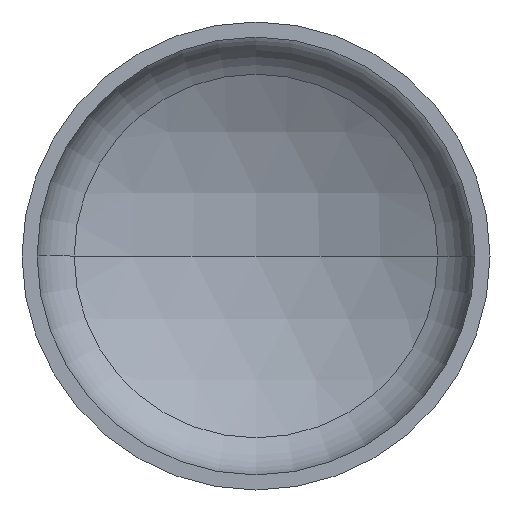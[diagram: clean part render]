
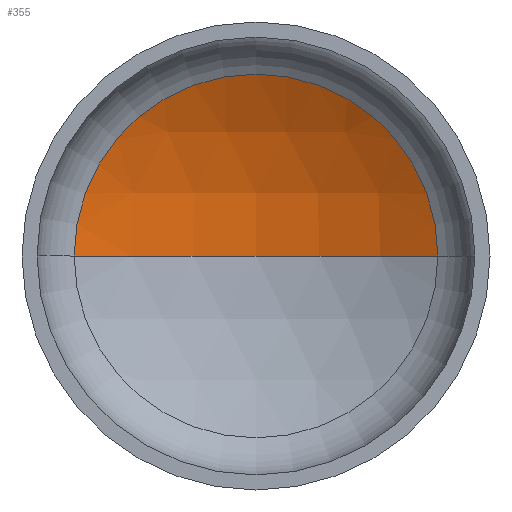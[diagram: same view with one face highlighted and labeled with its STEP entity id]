
A CAD part, front view. The second image highlights one B-rep face of the part: STEP entity #355.
In plain terms, the highlighted spherical face has radius 2080 mm.
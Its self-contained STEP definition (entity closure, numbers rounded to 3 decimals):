
#1 = AXIS2_PLACEMENT_3D ( 'NONE', #227, #398, #250 ) ;
#4 = AXIS2_PLACEMENT_3D ( 'NONE', #317, #243, #157 ) ;
#7 = AXIS2_PLACEMENT_3D ( 'NONE', #87, #343, #390 ) ;
#35 = EDGE_LOOP ( 'NONE', ( #147, #82, #122 ) ) ;
#82 = ORIENTED_EDGE ( 'NONE', *, *, #372, .T. ) ;
#83 = VERTEX_POINT ( 'NONE', #305 ) ;
#87 = CARTESIAN_POINT ( 'NONE',  ( 0., -1368.518, 0. ) ) ;
#93 = VERTEX_POINT ( 'NONE', #302 ) ;
#115 = VERTEX_POINT ( 'NONE', #284 ) ;
#122 = ORIENTED_EDGE ( 'NONE', *, *, #379, .T. ) ;
#147 = ORIENTED_EDGE ( 'NONE', *, *, #352, .F. ) ;
#157 = DIRECTION ( 'NONE',  ( -1., 0., 0. ) ) ;
#172 = CARTESIAN_POINT ( 'NONE',  ( 0., 449.647, 0. ) ) ;
#173 = DIRECTION ( 'NONE',  ( 0., -1., 0. ) ) ;
#179 = SPHERICAL_SURFACE ( 'NONE', #4, 2080. ) ;
#227 = CARTESIAN_POINT ( 'NONE',  ( 0., -1368.518, 0. ) ) ;
#230 = AXIS2_PLACEMENT_3D ( 'NONE', #172, #173, #349 ) ;
#243 = DIRECTION ( 'NONE',  ( 0., 0., -1. ) ) ;
#244 = CIRCLE ( 'NONE', #230, 1010.286 ) ;
#250 = DIRECTION ( 'NONE',  ( -1., 0., 0. ) ) ;
#284 = CARTESIAN_POINT ( 'NONE',  ( 1010.286, 449.647, 0. ) ) ;
#302 = CARTESIAN_POINT ( 'NONE',  ( 0., 711.482, 0. ) ) ;
#305 = CARTESIAN_POINT ( 'NONE',  ( -1010.286, 449.647, 0. ) ) ;
#312 = FACE_OUTER_BOUND ( 'NONE', #35, .T. ) ;
#317 = CARTESIAN_POINT ( 'NONE',  ( 0., -1368.518, 0. ) ) ;
#323 = CIRCLE ( 'NONE', #7, 2080. ) ;
#343 = DIRECTION ( 'NONE',  ( 0., 0., 1. ) ) ;
#349 = DIRECTION ( 'NONE',  ( 1., 0., 0. ) ) ;
#352 = EDGE_CURVE ( 'NONE', #93, #83, #323, .T. ) ;
#355 = ADVANCED_FACE ( 'NONE', ( #312 ), #179, .F. ) ;
#369 = CIRCLE ( 'NONE', #1, 2080. ) ;
#372 = EDGE_CURVE ( 'NONE', #93, #115, #369, .T. ) ;
#379 = EDGE_CURVE ( 'NONE', #115, #83, #244, .T. ) ;
#390 = DIRECTION ( 'NONE',  ( 1., 0., 0. ) ) ;
#398 = DIRECTION ( 'NONE',  ( 0., 0., -1. ) ) ;
